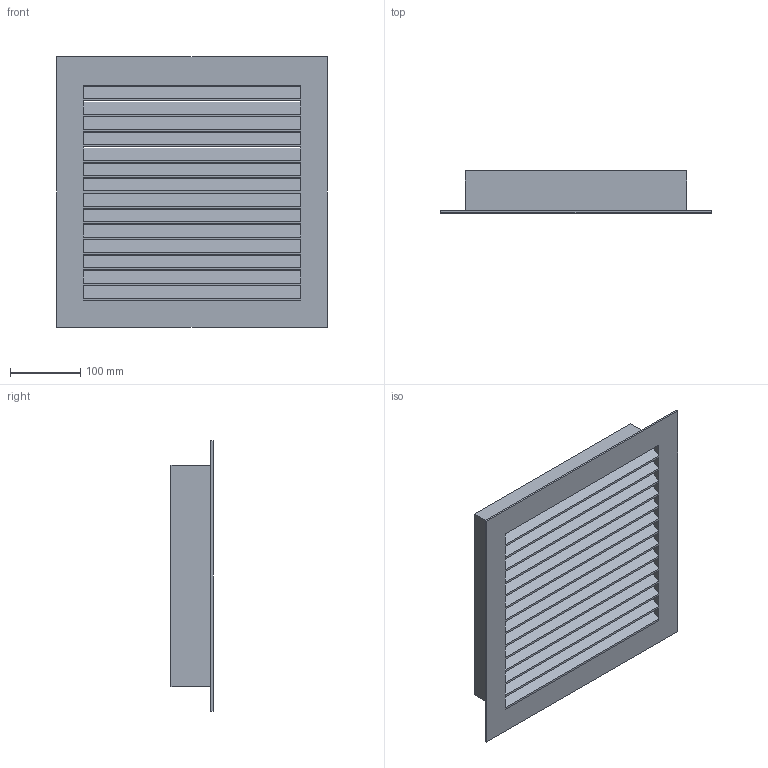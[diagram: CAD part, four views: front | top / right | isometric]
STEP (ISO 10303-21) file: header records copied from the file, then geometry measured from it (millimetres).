
FILE_DESCRIPTION(/* description */ (''),/* implementation_level */ '2;1');
FILE_NAME(/* name */ 'Z:\Output\WSG 315-00119-003.stp',/* time_stamp */ '2017-06-08T19:32:28+02:00',/* author */ ('pareshmistry'),/* organization */ (''),/* preprocessor_version */ 'ST-DEVELOPER v16.5',/* originating_system */ 'Autodesk Inventor 2017',/* authorisation */ '');
FILE_SCHEMA (('AUTOMOTIVE_DESIGN { 1 0 10303 214 3 1 1 }'));
Length unit declared in the file: millimetre
Products named in the file (1): WSG-1
Bounding box: 386 x 60 x 386 mm (x, y, z)
Volume: 765796.2 mm3; surface area: 582239.6 mm2
Topology: 1 solids, 1 shells, 58 faces, 204 edges, 136 vertices
Faces by surface type: plane 58
Entity records: 2238 total; most frequent: ORIENTED_EDGE 410, CARTESIAN_POINT 399, DIRECTION 322, LINE 204, VECTOR 204, EDGE_CURVE 204, VERTEX_POINT 136, EDGE_LOOP 75
